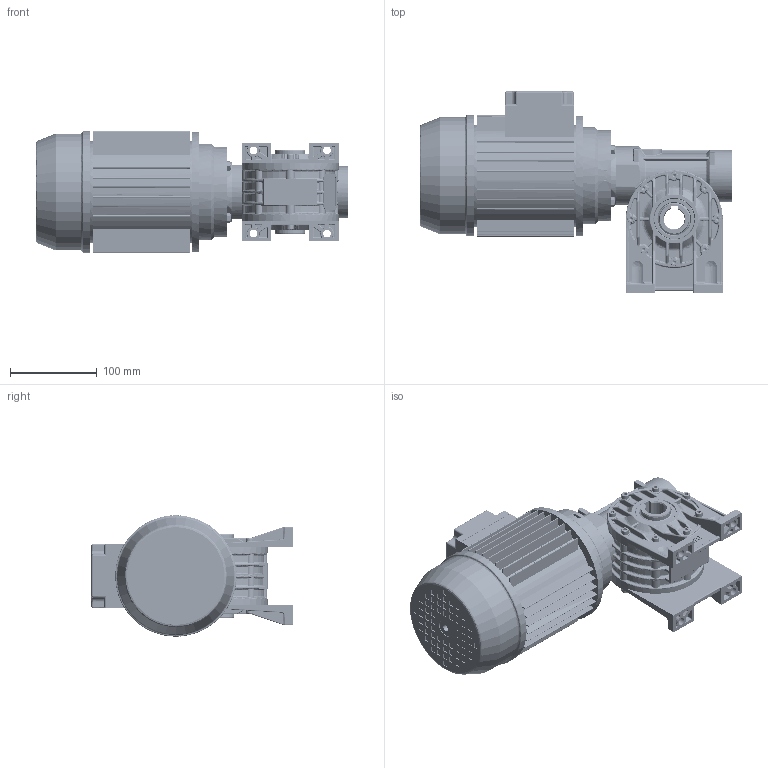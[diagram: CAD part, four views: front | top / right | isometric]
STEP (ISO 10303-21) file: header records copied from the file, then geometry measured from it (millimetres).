
FILE_DESCRIPTION (( 'STEP AP203' ), '1' );
FILE_NAME ('3F002098.STEP', '2012-07-23T06:13:20', ( 'Amministratore' ), ( 'SerteK sas' ), 'SwSTEP 2.0', 'SolidWorks 2009', '' );
FILE_SCHEMA (( 'CONFIG_CONTROL_DESIGN' ));
Length unit declared in the file: millimetre
Products named in the file (1): 3F002098
Bounding box: 361 x 232.5 x 140.98 mm (x, y, z)
Surface area: 453889.6 mm2 (no closed solid volume)
Topology: 0 solids, 89 shells, 6338 faces, 16143 edges, 9948 vertices
Faces by surface type: bspline 2085, cylinder 2013, plane 1777, cone 463
Entity records: 315377 total; most frequent: CARTESIAN_POINT 185426, ORIENTED_EDGE 31535, DIRECTION 19989, EDGE_CURVE 15901, VERTEX_POINT 9936, AXIS2_PLACEMENT_3D 7310, EDGE_LOOP 6673, B_SPLINE_CURVE_WITH_KNOTS 6625
